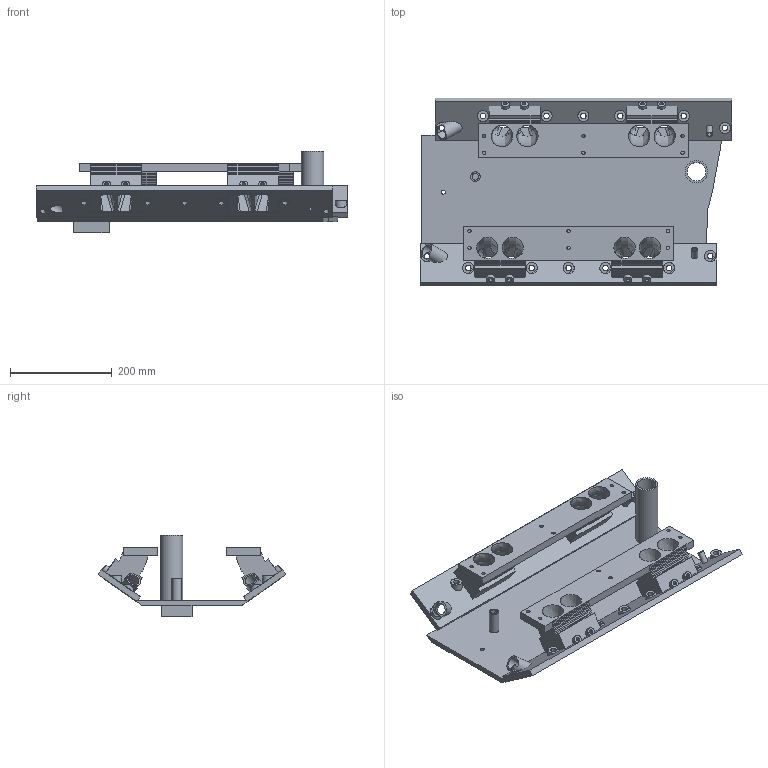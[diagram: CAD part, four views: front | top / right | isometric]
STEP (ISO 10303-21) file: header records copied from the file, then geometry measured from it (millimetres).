
FILE_DESCRIPTION(('Open CASCADE Model'),'2;1');
FILE_NAME('Open CASCADE Shape Model','2026-09-28T12:25:05',('Author'),( 'Open CASCADE'),'Open CASCADE STEP processor 8.0','build123d', 'Unknown');
FILE_SCHEMA(('AUTOMOTIVE_DESIGN { 1 0 10303 214 1 1 1 1 }'));
Length unit declared in the file: millimetre
Products named in the file (1): SOLID
Bounding box: 612 x 369.55 x 161 mm (x, y, z)
Volume: 3871322.6 mm3; surface area: 838791.6 mm2
Topology: 1 solids, 1 shells, 386 faces, 1186 edges, 794 vertices
Faces by surface type: plane 199, cylinder 107, bspline 80
Full cylindrical faces by diameter (mm): 6.8 x12, 7 x8, 8 x3, 11 x14, 12 x2, 13 x1, 19 x1, 22 x12, 23 x2, 30 x2, 36 x1, 44 x1
Entity records: 46266 total; most frequent: CARTESIAN_POINT 24471, DIRECTION 3595, ORIENTED_EDGE 2324, PCURVE 2324, DEFINITIONAL_REPRESENTATION 2324, LINE 1989, VECTOR 1989, EDGE_CURVE 1162
